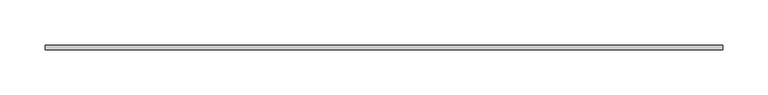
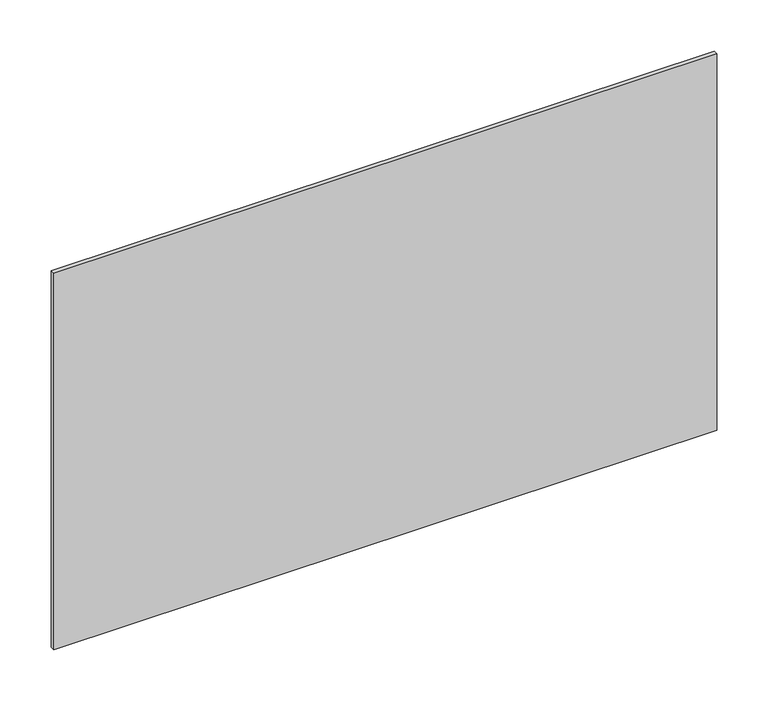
"""IFC4 building model written with IfcOpenShell, lengths in millimetres: damper geometry, ZYR_15.03 Unió Rect Conducte : ZYR_15.03 Unió Rect Conducte."""

from ifc_helpers import new_model, si_unit, frame, origin, place, context, project, spatial, polyline, outline, extrude, source, transform, mapped, element, save


def damper_da13660a(model_context):
    return source(origin(), model_context, "Body", "SweptSolid", [
        extrude(outline(polyline([(375.0, -2.5), (-375.0, -2.5), (-375.0, 2.5), (375.0, 2.5), (375.0, -2.5)])), frame((0.0, 0.0, -225.0), z_axis=(0.0, 0.0, 1.0), x_axis=(1.0, 0.0, 0.0)), (0.0, 0.0, 1.0), 450.0),
    ])


if __name__ == "__main__":
    model = new_model("IFC4")
    model_context = context("Model", 3, world=origin())
    ifc_project = project(units=[si_unit("LENGTHUNIT", "METRE", prefix="MILLI")], contexts=[model_context])
    site = spatial("IfcSite", under=ifc_project)
    building = spatial("IfcBuilding", under=site)
    placement = place(None, origin())
    damper_shape = damper_da13660a(model_context)
    element("IfcDamper", 1, ObjectType="ZYR_15.03 Unió Rect Conducte : ZYR_15.03 Unió Rect Conducte", at=placement, inside=building, context=model_context, shape_type="MappedRepresentation", body=[
        mapped(damper_shape, transform((0.0, 0.0, 0.0), x_axis=(1.0, 0.0, 0.0), y_axis=(0.0, 1.0, 0.0), z_axis=(0.0, 0.0, 1.0))),
    ])
    save(model, "model.ifc")
